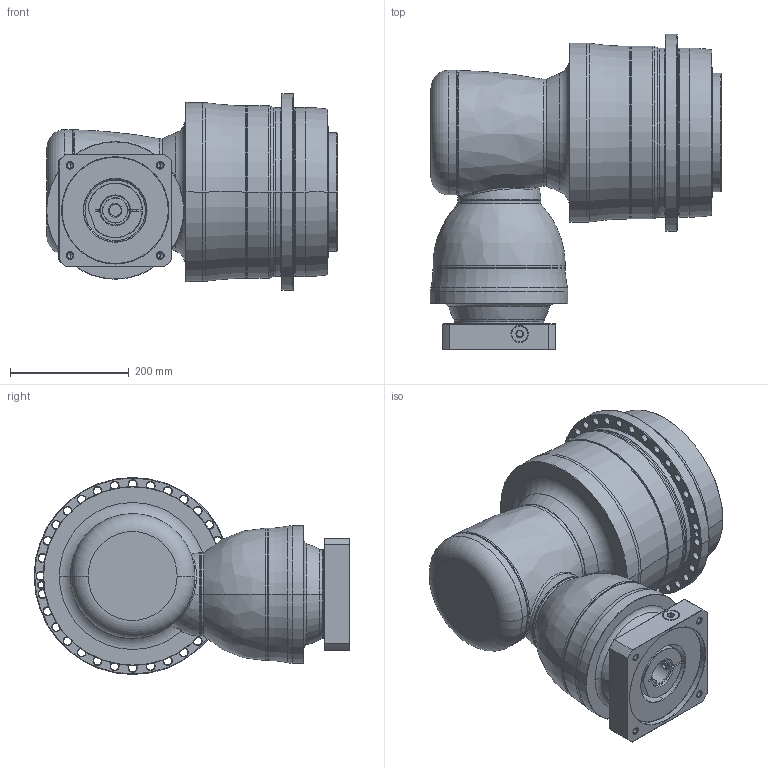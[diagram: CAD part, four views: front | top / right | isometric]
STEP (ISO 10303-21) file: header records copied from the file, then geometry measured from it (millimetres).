
FILE_DESCRIPTION((''),'2;1');
FILE_NAME('APK285_4ST_42-P0409A00201_ASM','2018-11-22T',('D00080'),(''),'PRO/ENGINEER BY PARAMETRIC TECHNOLOGY CORPORATION, 2015240','PRO/ENGINEER BY PARAMETRIC TECHNOLOGY CORPORATION, 2015240','');
FILE_SCHEMA(('CONFIG_CONTROL_DESIGN'));
Length unit declared in the file: millimetre
Products named in the file (13): P1008600002; P1832810001; P0278801003; P0359801103; P1211800001; P1315600001; P1007601001; P1317610501; P0503A00012; P0912505001; P0409A00201; 21711422019; APK285_4ST_42-P0409A00201_ASM
Assembly tree (12 placements, depth 2):
  APK285_4ST_42-P0409A00201_ASM
    P1008600002
    P1832810001
    P0278801003
    P0359801103
    P1211800001
    P1315600001
    P1007601001
    P1317610501
    P0503A00012
    P0912505001
    P0409A00201
    21711422019
Bounding box: 491 x 532 x 332 mm (x, y, z)
Volume: 31363325.7 mm3; surface area: 1796323.2 mm2
Topology: 13 solids, 36 shells, 808 faces, 1831 edges, 1093 vertices
Faces by surface type: cylinder 309, cone 254, plane 122, torus 86, bspline 35, sphere 2
Entity records: 29178 total; most frequent: CARTESIAN_POINT 10355, DIRECTION 4327, ORIENTED_EDGE 3496, AXIS2_PLACEMENT_3D 1849, EDGE_CURVE 1795, VERTEX_POINT 1093, CIRCLE 1039, EDGE_LOOP 972
